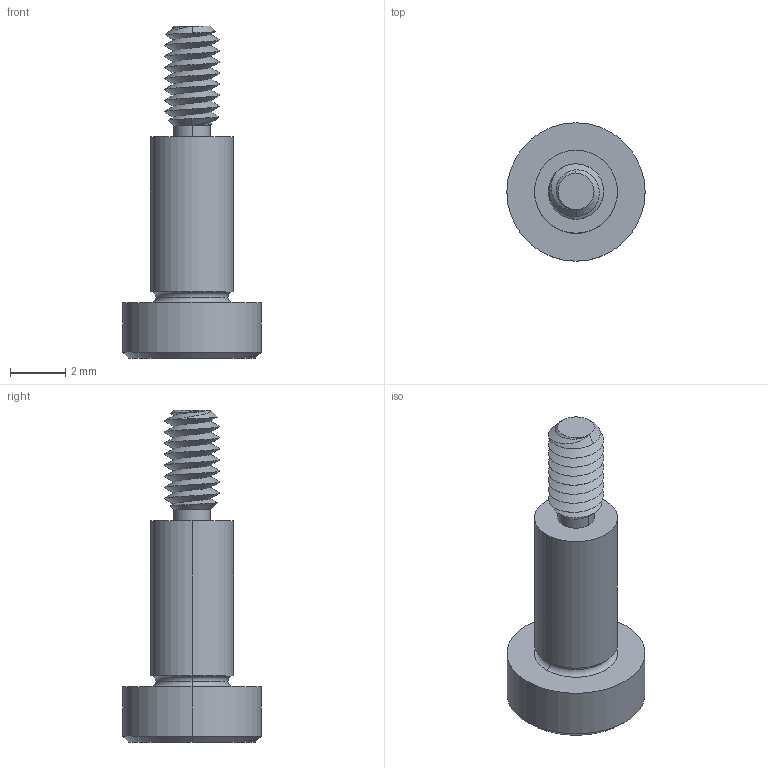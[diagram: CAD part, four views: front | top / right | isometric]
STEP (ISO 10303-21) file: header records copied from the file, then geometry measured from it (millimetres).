
FILE_DESCRIPTION (( 'STEP AP203' ), '1' );
FILE_NAME ('P0130.030-006-B2.step', '2021-11-09T20:54:20', ( '' ), ( '' ), 'SwSTEP 2.0', 'SolidWorks 2019', '' );
FILE_SCHEMA (( 'CONFIG_CONTROL_DESIGN' ));
Length unit declared in the file: millimetre
Products named in the file (1): P0130.030-006-B2
Bounding box: 5 x 5 x 12 mm (x, y, z)
Volume: 85.7 mm3; surface area: 172.7 mm2
Topology: 1 solids, 1 shells, 58 faces, 136 edges, 81 vertices
Faces by surface type: cylinder 22, plane 16, cone 14, torus 4, bspline 2
Entity records: 2452 total; most frequent: CARTESIAN_POINT 1166, ORIENTED_EDGE 268, DIRECTION 241, EDGE_CURVE 134, AXIS2_PLACEMENT_3D 97, VERTEX_POINT 81, EDGE_LOOP 61, ADVANCED_FACE 58
